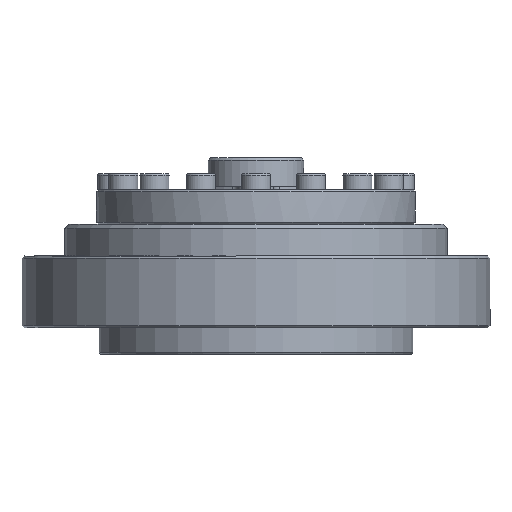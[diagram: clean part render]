
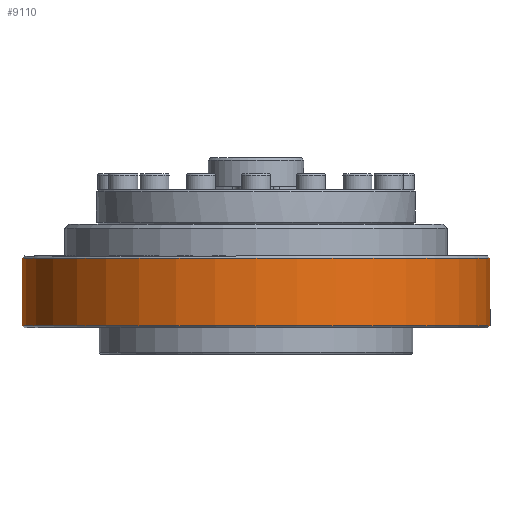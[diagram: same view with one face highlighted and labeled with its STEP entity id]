
A CAD part, front view. The second image highlights one B-rep face of the part: STEP entity #9110.
In plain terms, the highlighted cylindrical face has radius 44 mm (diameter 88 mm), a full revolution.
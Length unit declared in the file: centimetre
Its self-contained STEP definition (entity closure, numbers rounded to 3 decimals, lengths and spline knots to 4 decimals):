
#650=FACE_BOUND('',#3150,.T.);
#1918=CYLINDRICAL_SURFACE('',#10138,4.4);
#2388=FACE_OUTER_BOUND('',#3149,.T.);
#3149=EDGE_LOOP('',(#7644));
#3150=EDGE_LOOP('',(#7645));
#4006=CIRCLE('',#10136,4.4);
#4008=CIRCLE('',#10139,4.4);
#4730=VERTEX_POINT('',#15404);
#4732=VERTEX_POINT('',#15409);
#5790=EDGE_CURVE('',#4730,#4730,#4006,.T.);
#5792=EDGE_CURVE('',#4732,#4732,#4008,.T.);
#7644=ORIENTED_EDGE('',*,*,#5792,.F.);
#7645=ORIENTED_EDGE('',*,*,#5790,.F.);
#9110=ADVANCED_FACE('',(#2388,#650),#1918,.T.);
#10136=AXIS2_PLACEMENT_3D('',#15405,#12378,#12379);
#10138=AXIS2_PLACEMENT_3D('',#15408,#12382,#12383);
#10139=AXIS2_PLACEMENT_3D('',#15410,#12384,#12385);
#12378=DIRECTION('center_axis',(0.,0.,1.));
#12379=DIRECTION('ref_axis',(1.,0.,0.));
#12382=DIRECTION('center_axis',(0.,0.,-1.));
#12383=DIRECTION('ref_axis',(1.,0.,0.));
#12384=DIRECTION('center_axis',(0.,0.,-1.));
#12385=DIRECTION('ref_axis',(1.,0.,0.));
#15404=CARTESIAN_POINT('',(-4.4,0.,1.81));
#15405=CARTESIAN_POINT('Origin',(0.,0.,1.81));
#15408=CARTESIAN_POINT('Origin',(0.,0.,1.1));
#15409=CARTESIAN_POINT('',(-4.4,0.,0.54));
#15410=CARTESIAN_POINT('Origin',(0.,0.,0.54));
